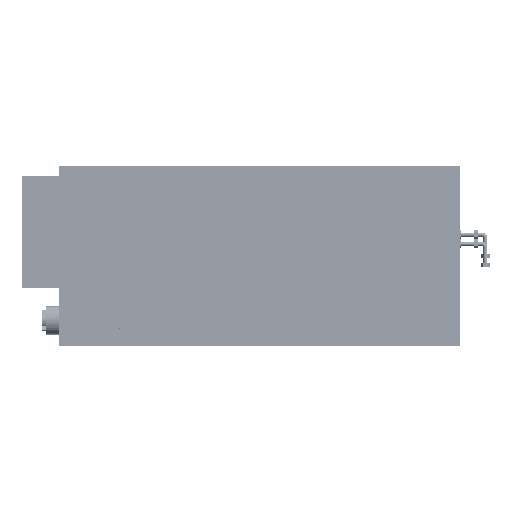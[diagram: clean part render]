
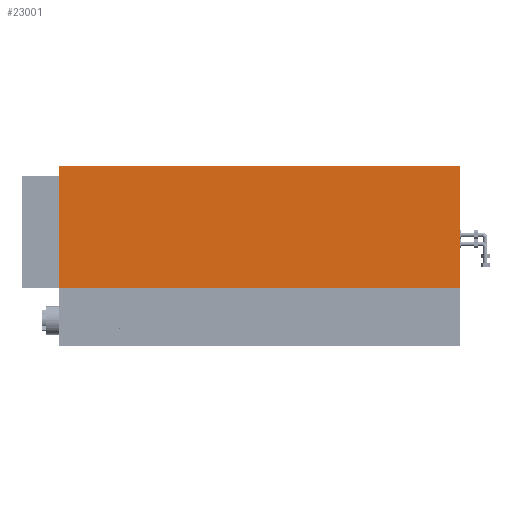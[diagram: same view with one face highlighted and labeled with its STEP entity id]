
A CAD part, top view. The second image highlights one B-rep face of the part: STEP entity #23001.
In plain terms, the highlighted planar face has unit normal (0, 0, 1).
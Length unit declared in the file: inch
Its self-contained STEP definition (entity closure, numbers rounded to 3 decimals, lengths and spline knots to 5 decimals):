
#9739 = DIRECTION ( 'NONE',  ( -1., 0., 0. ) ) ;
#20667 = DIRECTION ( 'NONE',  ( 0., -1., 0. ) ) ;
#23001 = ADVANCED_FACE ( 'NONE', ( #57680 ), #121738, .F. ) ;
#23166 = CARTESIAN_POINT ( 'NONE',  ( -24.75, 22.125, 2.5625 ) ) ;
#24545 = DIRECTION ( 'NONE',  ( 0., 0., -1. ) ) ;
#37860 = EDGE_CURVE ( 'NONE', #72903, #115288, #42877, .T. ) ;
#42877 = LINE ( 'NONE', #89891, #202822 ) ;
#56619 = CARTESIAN_POINT ( 'NONE',  ( -24.75, 22.125, 2.5625 ) ) ;
#57680 = FACE_OUTER_BOUND ( 'NONE', #79854, .T. ) ;
#60055 = AXIS2_PLACEMENT_3D ( 'NONE', #56619, #24545, #169844 ) ;
#60083 = CARTESIAN_POINT ( 'NONE',  ( 24.75, 7.164, 2.5625 ) ) ;
#60591 = CARTESIAN_POINT ( 'NONE',  ( -24.75, 7.164, 2.5625 ) ) ;
#64638 = VECTOR ( 'NONE', #156641, 39.37008 ) ;
#67393 = CARTESIAN_POINT ( 'NONE',  ( -24.75, 22.125, 2.5625 ) ) ;
#72903 = VERTEX_POINT ( 'NONE', #60083 ) ;
#78491 = EDGE_CURVE ( 'NONE', #151029, #115288, #178511, .T. ) ;
#79854 = EDGE_LOOP ( 'NONE', ( #153759, #89737, #185622, #172111 ) ) ;
#88987 = LINE ( 'NONE', #183029, #168081 ) ;
#89737 = ORIENTED_EDGE ( 'NONE', *, *, #37860, .F. ) ;
#89891 = CARTESIAN_POINT ( 'NONE',  ( -24.75, 7.164, 2.5625 ) ) ;
#107952 = EDGE_CURVE ( 'NONE', #151029, #149759, #139541, .T. ) ;
#115288 = VERTEX_POINT ( 'NONE', #60591 ) ;
#121738 = PLANE ( 'NONE',  #60055 ) ;
#130434 = DIRECTION ( 'NONE',  ( 0., -1., 0. ) ) ;
#139541 = LINE ( 'NONE', #23166, #64638 ) ;
#149759 = VERTEX_POINT ( 'NONE', #171168 ) ;
#151029 = VERTEX_POINT ( 'NONE', #156657 ) ;
#153759 = ORIENTED_EDGE ( 'NONE', *, *, #78491, .T. ) ;
#156641 = DIRECTION ( 'NONE',  ( 1., 0., 0. ) ) ;
#156657 = CARTESIAN_POINT ( 'NONE',  ( -24.75, 22.125, 2.5625 ) ) ;
#166465 = VECTOR ( 'NONE', #130434, 39.37008 ) ;
#168081 = VECTOR ( 'NONE', #20667, 39.37008 ) ;
#169844 = DIRECTION ( 'NONE',  ( -1., 0., 0. ) ) ;
#171168 = CARTESIAN_POINT ( 'NONE',  ( 24.75, 22.125, 2.5625 ) ) ;
#172111 = ORIENTED_EDGE ( 'NONE', *, *, #107952, .F. ) ;
#178511 = LINE ( 'NONE', #67393, #166465 ) ;
#183029 = CARTESIAN_POINT ( 'NONE',  ( 24.75, 22.125, 2.5625 ) ) ;
#185622 = ORIENTED_EDGE ( 'NONE', *, *, #191039, .F. ) ;
#191039 = EDGE_CURVE ( 'NONE', #149759, #72903, #88987, .T. ) ;
#202822 = VECTOR ( 'NONE', #9739, 39.37008 ) ;
